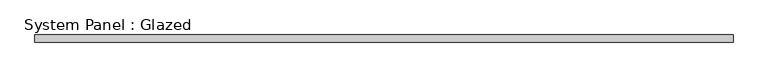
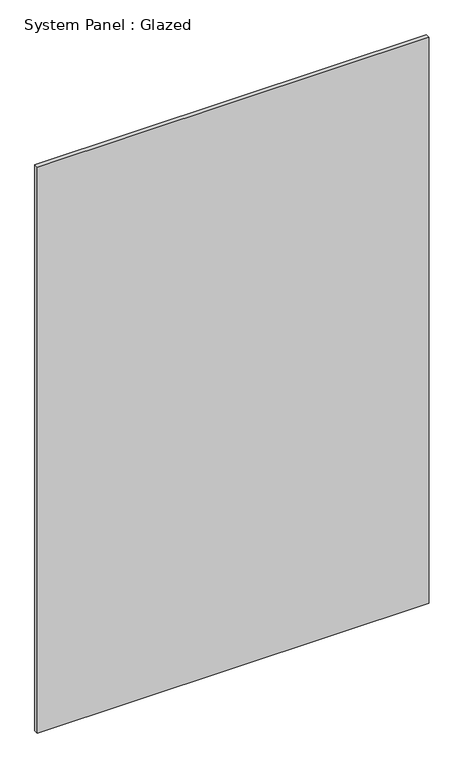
"""IFC4 building model written with IfcOpenShell, lengths in millimetres: plate geometry, System Panel : Glazed."""

from ifc_helpers import new_model, si_unit, origin, origin_with_axes, place, context, project, spatial, polyline, outline, extrude, source, transform, mapped, element, save


def system_panel_glazed_bb983545(model_context):
    return source(origin(), model_context, "Body", "SweptSolid", [
        extrude(outline(polyline([(1177.3289338, 19.05), (-1177.3289338, 19.05), (-1177.3289338, 44.45), (1177.3289338, 44.45), (1177.3289338, 19.05)])), origin_with_axes(), (0.0, 0.0, 1.0), 3594.1),
    ])


if __name__ == "__main__":
    model = new_model("IFC4")
    model_context = context("Model", 3, world=origin())
    ifc_project = project(units=[si_unit("LENGTHUNIT", "METRE", prefix="MILLI")], contexts=[model_context])
    site = spatial("IfcSite", under=ifc_project)
    building = spatial("IfcBuilding", under=site)
    placement = place(None, origin())
    system_panel_glazed_shape = system_panel_glazed_bb983545(model_context)
    element("IfcPlate", 1, ObjectType="System Panel : Glazed", at=placement, inside=building, context=model_context, shape_type="MappedRepresentation", body=[
        mapped(system_panel_glazed_shape, transform((0.0, 0.0, 0.0), x_axis=(1.0, 0.0, 0.0), y_axis=(0.0, 1.0, 0.0), z_axis=(0.0, 0.0, 1.0))),
    ])
    save(model, "model.ifc")
